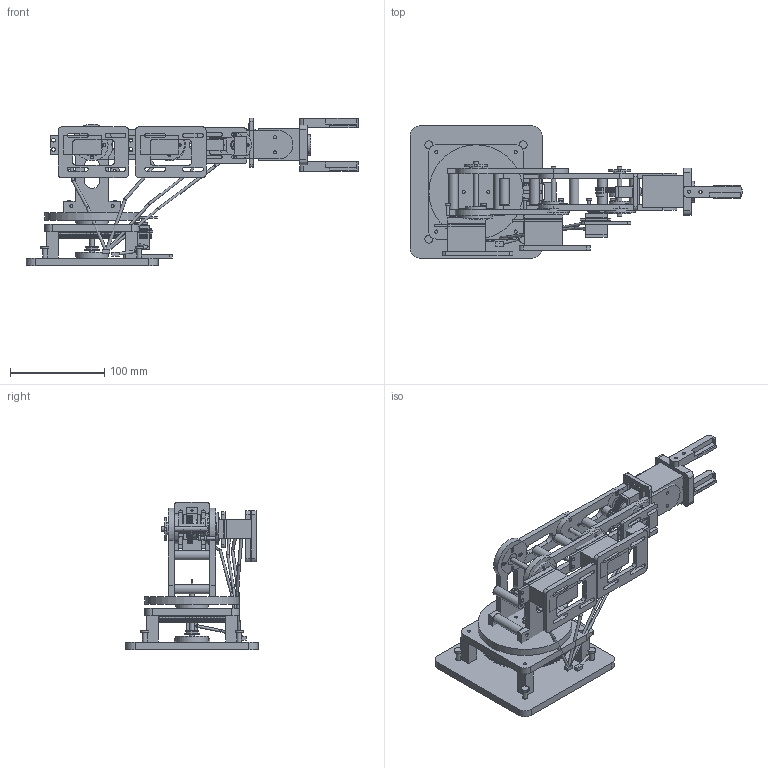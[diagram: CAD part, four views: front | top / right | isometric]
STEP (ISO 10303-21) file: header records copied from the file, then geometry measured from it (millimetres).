
FILE_DESCRIPTION(('FreeCAD Model'),'2;1');
FILE_NAME('Open CASCADE Shape Model','2026-07-26T07:30:34',('FreeCAD'),( 'FreeCAD'),'Open CASCADE STEP processor 7.8','FreeCAD','Unknown');
FILE_SCHEMA(('AUTOMOTIVE_DESIGN { 1 0 10303 214 1 1 1 1 }'));
Products named in the file (1): Open CASCADE STEP translator 7.8 2
Bounding box: 352 x 140 x 156 mm (x, y, z)
Volume: 807444.5 mm3; surface area: 348692.2 mm2
Topology: 263 solids, 263 shells, 3901 faces, 11002 edges, 7490 vertices
Faces by surface type: plane 3131, cylinder 690, sphere 80
Full cylindrical faces by diameter (mm): 2 x5, 2.3 x6, 2.6 x6, 2.8 x3, 3 x12, 3.3 x122, 4 x8, 4.7 x3, 4.8 x2, 5 x19, 5.2 x2, 5.3 x16, 5.5 x6, 5.8 x2, 8 x13, 8.2 x20, 8.5 x4, 8.6 x3, 9.2 x20, 10 x11, 10.5 x8, 12 x1, 12.4 x2, 12.7 x20, 13 x10, 13.05 x10, 14.4 x2, 15 x10, 15.2 x2, 22 x1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
Entity records: 125971 total; most frequent: CARTESIAN_POINT 23132, ORIENTED_EDGE 21524, DIRECTION 20550, EDGE_CURVE 10762, LINE 8752, VECTOR 8752, VERTEX_POINT 7410, AXIS2_PLACEMENT_3D 5899
